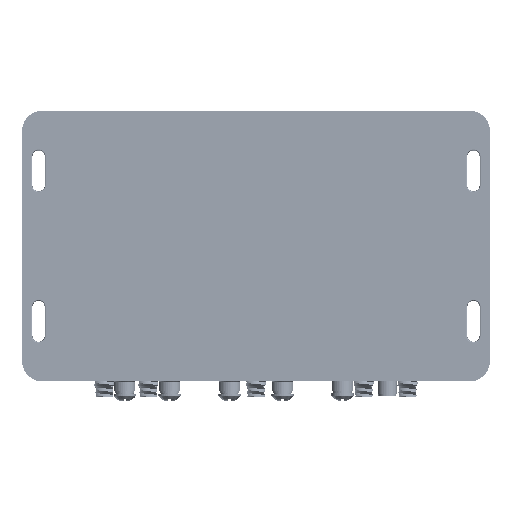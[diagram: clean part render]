
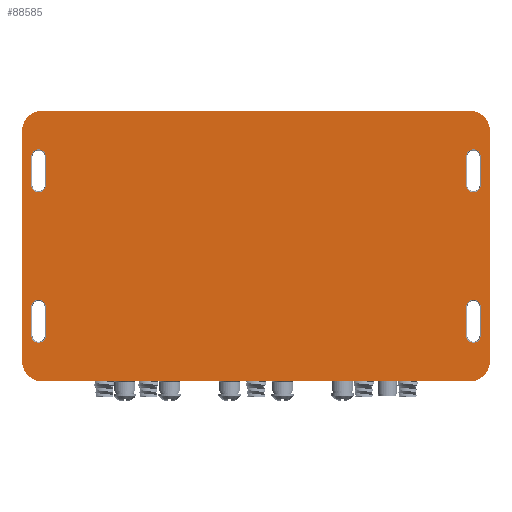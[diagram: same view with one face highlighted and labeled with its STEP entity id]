
A CAD part, front view. The second image highlights one B-rep face of the part: STEP entity #88585.
In plain terms, the highlighted planar face has unit normal (0, -1, 0).
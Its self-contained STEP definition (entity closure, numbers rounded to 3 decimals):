
#15653=CARTESIAN_POINT('',(5.25,0.,2.825));
#15654=DIRECTION('',(0.,1.,0.));
#15655=DIRECTION('',(0.,0.,1.));
#15656=AXIS2_PLACEMENT_3D('',#15653,#15654,#15655);
#15658=CARTESIAN_POINT('',(5.25,0.,-2.825));
#15659=DIRECTION('',(0.,1.,0.));
#15660=DIRECTION('',(1.,0.,0.));
#15661=AXIS2_PLACEMENT_3D('',#15658,#15659,#15660);
#15663=DIRECTION('',(-1.,0.,0.));
#15664=VECTOR('',#15663,10.5);
#15665=CARTESIAN_POINT('',(5.25,0.,-3.332));
#15666=LINE('',#15665,#15664);
#15667=CARTESIAN_POINT('',(-5.25,0.,-2.825));
#15668=DIRECTION('',(0.,1.,0.));
#15669=DIRECTION('',(0.,0.,-1.));
#15670=AXIS2_PLACEMENT_3D('',#15667,#15668,#15669);
#15672=CARTESIAN_POINT('',(-5.25,0.,2.825));
#15673=DIRECTION('',(0.,1.,0.));
#15674=DIRECTION('',(-1.,0.,0.));
#15675=AXIS2_PLACEMENT_3D('',#15672,#15673,#15674);
#15677=DIRECTION('',(1.,0.,0.));
#15678=VECTOR('',#15677,10.5);
#15679=CARTESIAN_POINT('',(-5.25,0.,3.332));
#15680=LINE('',#15679,#15678);
#15681=CARTESIAN_POINT('',(-5.35,0.,1.5));
#15682=DIRECTION('',(0.,-1.,0.));
#15683=DIRECTION('',(-1.,0.,0.));
#15684=AXIS2_PLACEMENT_3D('',#15681,#15682,#15683);
#15686=CARTESIAN_POINT('',(-5.35,0.,2.2));
#15687=DIRECTION('',(0.,-1.,0.));
#15688=DIRECTION('',(1.,0.,0.));
#15689=AXIS2_PLACEMENT_3D('',#15686,#15687,#15688);
#15691=CARTESIAN_POINT('',(-5.35,0.,-2.2));
#15692=DIRECTION('',(0.,-1.,0.));
#15693=DIRECTION('',(-1.,0.,0.));
#15694=AXIS2_PLACEMENT_3D('',#15691,#15692,#15693);
#15696=CARTESIAN_POINT('',(-5.35,0.,-1.5));
#15697=DIRECTION('',(0.,-1.,0.));
#15698=DIRECTION('',(1.,0.,0.));
#15699=AXIS2_PLACEMENT_3D('',#15696,#15697,#15698);
#15701=CARTESIAN_POINT('',(5.35,0.,1.5));
#15702=DIRECTION('',(0.,-1.,0.));
#15703=DIRECTION('',(-1.,0.,0.));
#15704=AXIS2_PLACEMENT_3D('',#15701,#15702,#15703);
#15706=CARTESIAN_POINT('',(5.35,0.,2.2));
#15707=DIRECTION('',(0.,-1.,0.));
#15708=DIRECTION('',(1.,0.,0.));
#15709=AXIS2_PLACEMENT_3D('',#15706,#15707,#15708);
#15711=CARTESIAN_POINT('',(5.35,0.,-2.2));
#15712=DIRECTION('',(0.,-1.,0.));
#15713=DIRECTION('',(-1.,0.,0.));
#15714=AXIS2_PLACEMENT_3D('',#15711,#15712,#15713);
#15716=CARTESIAN_POINT('',(5.35,0.,-1.5));
#15717=DIRECTION('',(0.,-1.,0.));
#15718=DIRECTION('',(1.,0.,0.));
#15719=AXIS2_PLACEMENT_3D('',#15716,#15717,#15718);
#16334=DIRECTION('',(0.,0.,1.));
#16335=VECTOR('',#16334,5.65);
#16336=CARTESIAN_POINT('',(5.757,0.,
-2.825));
#16337=LINE('',#16336,#16335);
#16446=DIRECTION('',(0.,0.,-1.));
#16447=VECTOR('',#16446,0.7);
#16448=CARTESIAN_POINT('',(5.529,0.,2.2));
#16449=LINE('',#16448,#16447);
#16460=DIRECTION('',(0.,0.,1.));
#16461=VECTOR('',#16460,0.7);
#16462=CARTESIAN_POINT('',(5.171,0.,1.5));
#16463=LINE('',#16462,#16461);
#16564=DIRECTION('',(0.,0.,-1.));
#16565=VECTOR('',#16564,0.7);
#16566=CARTESIAN_POINT('',(5.529,0.,-1.5));
#16567=LINE('',#16566,#16565);
#16578=DIRECTION('',(0.,0.,1.));
#16579=VECTOR('',#16578,0.7);
#16580=CARTESIAN_POINT('',(5.171,0.,-2.2));
#16581=LINE('',#16580,#16579);
#16595=DIRECTION('',(0.,0.,-1.));
#16596=VECTOR('',#16595,5.65);
#16597=CARTESIAN_POINT('',(-5.757,0.,
2.825));
#16598=LINE('',#16597,#16596);
#16613=DIRECTION('',(0.,0.,1.));
#16614=VECTOR('',#16613,0.7);
#16615=CARTESIAN_POINT('',(-5.529,0.,1.5));
#16616=LINE('',#16615,#16614);
#16636=DIRECTION('',(0.,0.,-1.));
#16637=VECTOR('',#16636,0.7);
#16638=CARTESIAN_POINT('',(-5.171,0.,2.2));
#16639=LINE('',#16638,#16637);
#16731=DIRECTION('',(0.,0.,1.));
#16732=VECTOR('',#16731,0.7);
#16733=CARTESIAN_POINT('',(-5.529,0.,-2.2));
#16734=LINE('',#16733,#16732);
#16754=DIRECTION('',(0.,0.,-1.));
#16755=VECTOR('',#16754,0.7);
#16756=CARTESIAN_POINT('',(-5.171,0.,-1.5));
#16757=LINE('',#16756,#16755);
#47811=CARTESIAN_POINT('',(-5.25,0.,
-3.332));
#47813=VERTEX_POINT('',#47811);
#47815=CARTESIAN_POINT('',(5.25,0.,-3.332));
#47816=VERTEX_POINT('',#47815);
#47876=CARTESIAN_POINT('',(5.25,0.,
3.332));
#47877=VERTEX_POINT('',#47876);
#47878=CARTESIAN_POINT('',(-5.25,0.,3.332));
#47879=VERTEX_POINT('',#47878);
#47999=CARTESIAN_POINT('',(5.757,0.,2.825));
#48000=VERTEX_POINT('',#47999);
#48001=CARTESIAN_POINT('',(5.757,0.,
-2.825));
#48002=VERTEX_POINT('',#48001);
#48003=CARTESIAN_POINT('',(-5.757,0.,-2.825));
#48004=VERTEX_POINT('',#48003);
#48005=CARTESIAN_POINT('',(-5.757,0.,
2.825));
#48006=VERTEX_POINT('',#48005);
#48007=CARTESIAN_POINT('',(-5.529,0.,1.5));
#48008=CARTESIAN_POINT('',(-5.171,0.,1.5));
#48009=VERTEX_POINT('',#48007);
#48010=VERTEX_POINT('',#48008);
#48011=CARTESIAN_POINT('',(-5.171,0.,2.2));
#48012=CARTESIAN_POINT('',(-5.529,0.,2.2));
#48013=VERTEX_POINT('',#48011);
#48014=VERTEX_POINT('',#48012);
#48015=CARTESIAN_POINT('',(-5.529,0.,-2.2));
#48016=CARTESIAN_POINT('',(-5.171,0.,-2.2));
#48017=VERTEX_POINT('',#48015);
#48018=VERTEX_POINT('',#48016);
#48019=CARTESIAN_POINT('',(-5.171,0.,-1.5));
#48020=CARTESIAN_POINT('',(-5.529,0.,-1.5));
#48021=VERTEX_POINT('',#48019);
#48022=VERTEX_POINT('',#48020);
#48023=CARTESIAN_POINT('',(5.171,0.,1.5));
#48024=CARTESIAN_POINT('',(5.529,0.,1.5));
#48025=VERTEX_POINT('',#48023);
#48026=VERTEX_POINT('',#48024);
#48027=CARTESIAN_POINT('',(5.529,0.,2.2));
#48028=CARTESIAN_POINT('',(5.171,0.,2.2));
#48029=VERTEX_POINT('',#48027);
#48030=VERTEX_POINT('',#48028);
#48031=CARTESIAN_POINT('',(5.171,0.,-2.2));
#48032=CARTESIAN_POINT('',(5.529,0.,-2.2));
#48033=VERTEX_POINT('',#48031);
#48034=VERTEX_POINT('',#48032);
#48035=CARTESIAN_POINT('',(5.529,0.,-1.5));
#48036=CARTESIAN_POINT('',(5.171,0.,-1.5));
#48037=VERTEX_POINT('',#48035);
#48038=VERTEX_POINT('',#48036);
#88525=CARTESIAN_POINT('',(0.,0.,0.));
#88526=DIRECTION('',(0.,1.,0.));
#88527=DIRECTION('',(1.,0.,0.));
#88528=AXIS2_PLACEMENT_3D('',#88525,#88526,#88527);
#88529=PLANE('',#88528);
#88531=ORIENTED_EDGE('',*,*,#88530,.T.);
#88533=ORIENTED_EDGE('',*,*,#88532,.F.);
#88535=ORIENTED_EDGE('',*,*,#88534,.T.);
#88536=ORIENTED_EDGE('',*,*,#87211,.T.);
#88538=ORIENTED_EDGE('',*,*,#88537,.T.);
#88540=ORIENTED_EDGE('',*,*,#88539,.F.);
#88541=ORIENTED_EDGE('',*,*,#88511,.T.);
#88542=ORIENTED_EDGE('',*,*,#86677,.T.);
#88543=EDGE_LOOP('',(#88531,#88533,#88535,#88536,#88538,#88540,#88541,#88542));
#88544=FACE_OUTER_BOUND('',#88543,.F.);
#88546=ORIENTED_EDGE('',*,*,#88545,.T.);
#88548=ORIENTED_EDGE('',*,*,#88547,.F.);
#88550=ORIENTED_EDGE('',*,*,#88549,.T.);
#88552=ORIENTED_EDGE('',*,*,#88551,.F.);
#88553=EDGE_LOOP('',(#88546,#88548,#88550,#88552));
#88554=FACE_BOUND('',#88553,.F.);
#88556=ORIENTED_EDGE('',*,*,#88555,.T.);
#88558=ORIENTED_EDGE('',*,*,#88557,.F.);
#88560=ORIENTED_EDGE('',*,*,#88559,.T.);
#88562=ORIENTED_EDGE('',*,*,#88561,.F.);
#88563=EDGE_LOOP('',(#88556,#88558,#88560,#88562));
#88564=FACE_BOUND('',#88563,.F.);
#88566=ORIENTED_EDGE('',*,*,#88565,.T.);
#88568=ORIENTED_EDGE('',*,*,#88567,.F.);
#88570=ORIENTED_EDGE('',*,*,#88569,.T.);
#88572=ORIENTED_EDGE('',*,*,#88571,.F.);
#88573=EDGE_LOOP('',(#88566,#88568,#88570,#88572));
#88574=FACE_BOUND('',#88573,.F.);
#88576=ORIENTED_EDGE('',*,*,#88575,.T.);
#88578=ORIENTED_EDGE('',*,*,#88577,.F.);
#88580=ORIENTED_EDGE('',*,*,#88579,.T.);
#88582=ORIENTED_EDGE('',*,*,#88581,.F.);
#88583=EDGE_LOOP('',(#88576,#88578,#88580,#88582));
#88584=FACE_BOUND('',#88583,.F.);
#15657=CIRCLE('',#15656,0.507);
#15662=CIRCLE('',#15661,0.507);
#15671=CIRCLE('',#15670,0.507);
#15676=CIRCLE('',#15675,0.507);
#15685=CIRCLE('',#15684,0.179);
#15690=CIRCLE('',#15689,0.179);
#15695=CIRCLE('',#15694,0.179);
#15700=CIRCLE('',#15699,0.179);
#15705=CIRCLE('',#15704,0.179);
#15710=CIRCLE('',#15709,0.179);
#15715=CIRCLE('',#15714,0.179);
#15720=CIRCLE('',#15719,0.179);
#86677=EDGE_CURVE('',#47879,#47877,#15680,.T.);
#87211=EDGE_CURVE('',#47816,#47813,#15666,.T.);
#88511=EDGE_CURVE('',#48006,#47879,#15676,.T.);
#88530=EDGE_CURVE('',#47877,#48000,#15657,.T.);
#88532=EDGE_CURVE('',#48002,#48000,#16337,.T.);
#88534=EDGE_CURVE('',#48002,#47816,#15662,.T.);
#88537=EDGE_CURVE('',#47813,#48004,#15671,.T.);
#88539=EDGE_CURVE('',#48006,#48004,#16598,.T.);
#88545=EDGE_CURVE('',#48009,#48010,#15685,.T.);
#88547=EDGE_CURVE('',#48013,#48010,#16639,.T.);
#88549=EDGE_CURVE('',#48013,#48014,#15690,.T.);
#88551=EDGE_CURVE('',#48009,#48014,#16616,.T.);
#88555=EDGE_CURVE('',#48017,#48018,#15695,.T.);
#88557=EDGE_CURVE('',#48021,#48018,#16757,.T.);
#88559=EDGE_CURVE('',#48021,#48022,#15700,.T.);
#88561=EDGE_CURVE('',#48017,#48022,#16734,.T.);
#88565=EDGE_CURVE('',#48025,#48026,#15705,.T.);
#88567=EDGE_CURVE('',#48029,#48026,#16449,.T.);
#88569=EDGE_CURVE('',#48029,#48030,#15710,.T.);
#88571=EDGE_CURVE('',#48025,#48030,#16463,.T.);
#88575=EDGE_CURVE('',#48033,#48034,#15715,.T.);
#88577=EDGE_CURVE('',#48037,#48034,#16567,.T.);
#88579=EDGE_CURVE('',#48037,#48038,#15720,.T.);
#88581=EDGE_CURVE('',#48033,#48038,#16581,.T.);
#88585=ADVANCED_FACE('',(#88544,#88554,#88564,#88574,#88584),#88529,.F.);
